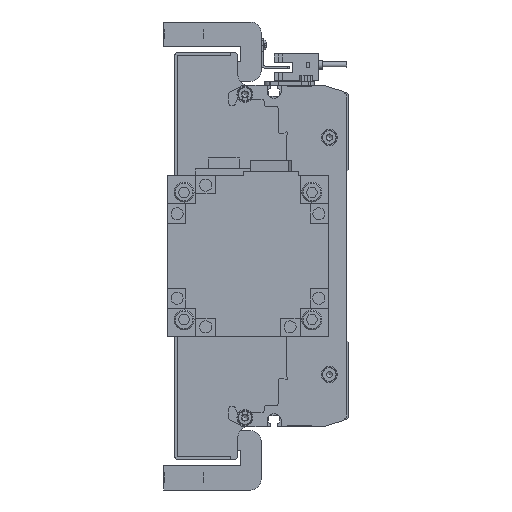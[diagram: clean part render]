
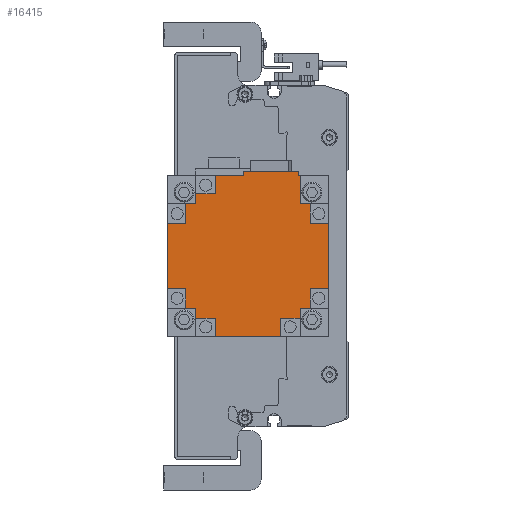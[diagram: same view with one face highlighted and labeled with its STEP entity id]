
A CAD part, left-side view. The second image highlights one B-rep face of the part: STEP entity #16415.
In plain terms, the highlighted planar face has unit normal (-1, 0, 0) as drawn and (0, 1, 0) by its records, which use the part's own axes.
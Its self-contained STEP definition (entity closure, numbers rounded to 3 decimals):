
#1696=ORIENTED_EDGE('',*,*,#6244,.T.);
#1697=ORIENTED_EDGE('',*,*,#6245,.T.);
#1698=ORIENTED_EDGE('',*,*,#6246,.T.);
#1699=ORIENTED_EDGE('',*,*,#6247,.T.);
#1700=ORIENTED_EDGE('',*,*,#6248,.T.);
#1701=ORIENTED_EDGE('',*,*,#6249,.F.);
#1702=ORIENTED_EDGE('',*,*,#6250,.F.);
#1703=ORIENTED_EDGE('',*,*,#6251,.T.);
#1704=ORIENTED_EDGE('',*,*,#6252,.T.);
#1705=ORIENTED_EDGE('',*,*,#6253,.T.);
#1706=ORIENTED_EDGE('',*,*,#6254,.T.);
#1707=ORIENTED_EDGE('',*,*,#6255,.T.);
#1708=ORIENTED_EDGE('',*,*,#6256,.F.);
#1709=ORIENTED_EDGE('',*,*,#6257,.F.);
#1710=ORIENTED_EDGE('',*,*,#6258,.T.);
#1711=ORIENTED_EDGE('',*,*,#6259,.T.);
#1712=ORIENTED_EDGE('',*,*,#6260,.T.);
#1713=ORIENTED_EDGE('',*,*,#6261,.T.);
#1714=ORIENTED_EDGE('',*,*,#6262,.T.);
#1715=ORIENTED_EDGE('',*,*,#6263,.F.);
#1716=ORIENTED_EDGE('',*,*,#6264,.F.);
#1717=ORIENTED_EDGE('',*,*,#6235,.T.);
#1718=ORIENTED_EDGE('',*,*,#6265,.F.);
#1719=ORIENTED_EDGE('',*,*,#6226,.F.);
#1720=ORIENTED_EDGE('',*,*,#6266,.T.);
#1721=ORIENTED_EDGE('',*,*,#6241,.T.);
#1722=ORIENTED_EDGE('',*,*,#6267,.T.);
#1723=ORIENTED_EDGE('',*,*,#6268,.T.);
#1724=ORIENTED_EDGE('',*,*,#6269,.F.);
#1725=ORIENTED_EDGE('',*,*,#6270,.F.);
#6226=EDGE_CURVE('',#8532,#8533,#10206,.T.);
#6235=EDGE_CURVE('',#8542,#8540,#10215,.T.);
#6241=EDGE_CURVE('',#8548,#8547,#10221,.T.);
#6244=EDGE_CURVE('',#8550,#8551,#10224,.T.);
#6245=EDGE_CURVE('',#8551,#8552,#10225,.T.);
#6246=EDGE_CURVE('',#8552,#8553,#10226,.T.);
#6247=EDGE_CURVE('',#8553,#8554,#10227,.T.);
#6248=EDGE_CURVE('',#8554,#8555,#10228,.T.);
#6249=EDGE_CURVE('',#8556,#8555,#10229,.T.);
#6250=EDGE_CURVE('',#8557,#8556,#10230,.T.);
#6251=EDGE_CURVE('',#8557,#8558,#10231,.T.);
#6252=EDGE_CURVE('',#8558,#8559,#10232,.T.);
#6253=EDGE_CURVE('',#8559,#8560,#10233,.T.);
#6254=EDGE_CURVE('',#8560,#8561,#10234,.T.);
#6255=EDGE_CURVE('',#8561,#8562,#10235,.T.);
#6256=EDGE_CURVE('',#8563,#8562,#10236,.T.);
#6257=EDGE_CURVE('',#8564,#8563,#10237,.T.);
#6258=EDGE_CURVE('',#8564,#8565,#10238,.T.);
#6259=EDGE_CURVE('',#8565,#8566,#10239,.T.);
#6260=EDGE_CURVE('',#8566,#8567,#10240,.T.);
#6261=EDGE_CURVE('',#8567,#8568,#10241,.T.);
#6262=EDGE_CURVE('',#8568,#8569,#10242,.T.);
#6263=EDGE_CURVE('',#8570,#8569,#10243,.T.);
#6264=EDGE_CURVE('',#8542,#8570,#10244,.T.);
#6265=EDGE_CURVE('',#8533,#8540,#10245,.T.);
#6266=EDGE_CURVE('',#8532,#8548,#10246,.T.);
#6267=EDGE_CURVE('',#8547,#8571,#10247,.T.);
#6268=EDGE_CURVE('',#8571,#8572,#10248,.T.);
#6269=EDGE_CURVE('',#8573,#8572,#10249,.T.);
#6270=EDGE_CURVE('',#8550,#8573,#10250,.T.);
#8532=VERTEX_POINT('',#24375);
#8533=VERTEX_POINT('',#24376);
#8540=VERTEX_POINT('',#24392);
#8542=VERTEX_POINT('',#24395);
#8547=VERTEX_POINT('',#24405);
#8548=VERTEX_POINT('',#24407);
#8550=VERTEX_POINT('',#24413);
#8551=VERTEX_POINT('',#24414);
#8552=VERTEX_POINT('',#24416);
#8553=VERTEX_POINT('',#24418);
#8554=VERTEX_POINT('',#24420);
#8555=VERTEX_POINT('',#24422);
#8556=VERTEX_POINT('',#24424);
#8557=VERTEX_POINT('',#24426);
#8558=VERTEX_POINT('',#24428);
#8559=VERTEX_POINT('',#24430);
#8560=VERTEX_POINT('',#24432);
#8561=VERTEX_POINT('',#24434);
#8562=VERTEX_POINT('',#24436);
#8563=VERTEX_POINT('',#24438);
#8564=VERTEX_POINT('',#24440);
#8565=VERTEX_POINT('',#24442);
#8566=VERTEX_POINT('',#24444);
#8567=VERTEX_POINT('',#24446);
#8568=VERTEX_POINT('',#24448);
#8569=VERTEX_POINT('',#24450);
#8570=VERTEX_POINT('',#24452);
#8571=VERTEX_POINT('',#24457);
#8572=VERTEX_POINT('',#24459);
#8573=VERTEX_POINT('',#24461);
#10206=LINE('',#24374,#11760);
#10215=LINE('',#24394,#11769);
#10221=LINE('',#24406,#11775);
#10224=LINE('',#24412,#11778);
#10225=LINE('',#24415,#11779);
#10226=LINE('',#24417,#11780);
#10227=LINE('',#24419,#11781);
#10228=LINE('',#24421,#11782);
#10229=LINE('',#24423,#11783);
#10230=LINE('',#24425,#11784);
#10231=LINE('',#24427,#11785);
#10232=LINE('',#24429,#11786);
#10233=LINE('',#24431,#11787);
#10234=LINE('',#24433,#11788);
#10235=LINE('',#24435,#11789);
#10236=LINE('',#24437,#11790);
#10237=LINE('',#24439,#11791);
#10238=LINE('',#24441,#11792);
#10239=LINE('',#24443,#11793);
#10240=LINE('',#24445,#11794);
#10241=LINE('',#24447,#11795);
#10242=LINE('',#24449,#11796);
#10243=LINE('',#24451,#11797);
#10244=LINE('',#24453,#11798);
#10245=LINE('',#24454,#11799);
#10246=LINE('',#24455,#11800);
#10247=LINE('',#24456,#11801);
#10248=LINE('',#24458,#11802);
#10249=LINE('',#24460,#11803);
#10250=LINE('',#24462,#11804);
#11760=VECTOR('',#19449,1000.);
#11769=VECTOR('',#19460,1000.);
#11775=VECTOR('',#19466,1000.);
#11778=VECTOR('',#19471,1000.);
#11779=VECTOR('',#19472,1000.);
#11780=VECTOR('',#19473,1000.);
#11781=VECTOR('',#19474,1000.);
#11782=VECTOR('',#19475,1000.);
#11783=VECTOR('',#19476,1000.);
#11784=VECTOR('',#19477,1000.);
#11785=VECTOR('',#19478,1000.);
#11786=VECTOR('',#19479,1000.);
#11787=VECTOR('',#19480,1000.);
#11788=VECTOR('',#19481,1000.);
#11789=VECTOR('',#19482,1000.);
#11790=VECTOR('',#19483,1000.);
#11791=VECTOR('',#19484,1000.);
#11792=VECTOR('',#19485,1000.);
#11793=VECTOR('',#19486,1000.);
#11794=VECTOR('',#19487,1000.);
#11795=VECTOR('',#19488,1000.);
#11796=VECTOR('',#19489,1000.);
#11797=VECTOR('',#19490,1000.);
#11798=VECTOR('',#19491,1000.);
#11799=VECTOR('',#19492,1000.);
#11800=VECTOR('',#19493,1000.);
#11801=VECTOR('',#19494,1000.);
#11802=VECTOR('',#19495,1000.);
#11803=VECTOR('',#19496,1000.);
#11804=VECTOR('',#19497,1000.);
#13258=EDGE_LOOP('',(#1696,#1697,#1698,#1699,#1700,#1701,#1702,#1703,#1704,
#1705,#1706,#1707,#1708,#1709,#1710,#1711,#1712,#1713,#1714,#1715,#1716,
#1717,#1718,#1719,#1720,#1721,#1722,#1723,#1724,#1725));
#14540=FACE_BOUND('',#13258,.T.);
#15815=PLANE('',#17514);
#16415=ADVANCED_FACE('',(#14540),#15815,.T.);
#17514=AXIS2_PLACEMENT_3D('',#24411,#19469,#19470);
#19449=DIRECTION('',(0.,0.,1.));
#19460=DIRECTION('',(0.,0.,-1.));
#19466=DIRECTION('',(0.,0.,-1.));
#19469=DIRECTION('',(0.,1.,0.));
#19470=DIRECTION('',(0.,0.,1.));
#19471=DIRECTION('',(-1.,0.,0.));
#19472=DIRECTION('',(0.,0.,-1.));
#19473=DIRECTION('',(-1.,0.,0.));
#19474=DIRECTION('',(0.,0.,1.));
#19475=DIRECTION('',(-1.,0.,0.));
#19476=DIRECTION('',(0.,0.,-1.));
#19477=DIRECTION('',(1.,0.,0.));
#19478=DIRECTION('',(0.,0.,1.));
#19479=DIRECTION('',(-1.,0.,0.));
#19480=DIRECTION('',(0.,0.,1.));
#19481=DIRECTION('',(1.,0.,0.));
#19482=DIRECTION('',(0.,0.,1.));
#19483=DIRECTION('',(-1.,0.,0.));
#19484=DIRECTION('',(0.,0.,-1.));
#19485=DIRECTION('',(1.,0.,0.));
#19486=DIRECTION('',(0.,0.,1.));
#19487=DIRECTION('',(1.,0.,0.));
#19488=DIRECTION('',(0.,0.,-1.));
#19489=DIRECTION('',(1.,0.,0.));
#19490=DIRECTION('',(0.,0.,1.));
#19491=DIRECTION('',(-1.,0.,0.));
#19492=DIRECTION('',(-1.,0.,0.));
#19493=DIRECTION('',(-1.,0.,0.));
#19494=DIRECTION('',(-1.,0.,0.));
#19495=DIRECTION('',(0.,0.,-1.));
#19496=DIRECTION('',(1.,0.,0.));
#19497=DIRECTION('',(0.,0.,1.));
#24374=CARTESIAN_POINT('',(42.,138.3,-2.2));
#24375=CARTESIAN_POINT('',(42.,138.3,-2.2));
#24376=CARTESIAN_POINT('',(42.,138.3,25.2));
#24392=CARTESIAN_POINT('',(39.95,138.3,25.2));
#24394=CARTESIAN_POINT('',(39.95,138.3,39.95));
#24395=CARTESIAN_POINT('',(39.95,138.3,25.95));
#24405=CARTESIAN_POINT('',(39.95,138.3,-16.35));
#24406=CARTESIAN_POINT('',(39.95,138.3,39.95));
#24407=CARTESIAN_POINT('',(39.95,138.3,-2.2));
#24411=CARTESIAN_POINT('',(0.,138.3,0.));
#24412=CARTESIAN_POINT('',(0.,138.3,-30.95));
#24413=CARTESIAN_POINT('',(25.95,138.3,-30.95));
#24414=CARTESIAN_POINT('',(16.35,138.3,-30.95));
#24415=CARTESIAN_POINT('',(16.35,138.3,0.));
#24416=CARTESIAN_POINT('',(16.35,138.3,-39.95));
#24417=CARTESIAN_POINT('',(39.95,138.3,-39.95));
#24418=CARTESIAN_POINT('',(-16.35,138.3,-39.95));
#24419=CARTESIAN_POINT('',(-16.35,138.3,0.));
#24420=CARTESIAN_POINT('',(-16.35,138.3,-30.95));
#24421=CARTESIAN_POINT('',(0.,138.3,-30.95));
#24422=CARTESIAN_POINT('',(-25.95,138.3,-30.95));
#24423=CARTESIAN_POINT('',(-25.95,138.3,0.));
#24424=CARTESIAN_POINT('',(-25.95,138.3,-25.95));
#24425=CARTESIAN_POINT('',(0.,138.3,-25.95));
#24426=CARTESIAN_POINT('',(-30.95,138.3,-25.95));
#24427=CARTESIAN_POINT('',(-30.95,138.3,0.));
#24428=CARTESIAN_POINT('',(-30.95,138.3,-16.35));
#24429=CARTESIAN_POINT('',(0.,138.3,-16.35));
#24430=CARTESIAN_POINT('',(-39.95,138.3,-16.35));
#24431=CARTESIAN_POINT('',(-39.95,138.3,-39.95));
#24432=CARTESIAN_POINT('',(-39.95,138.3,16.35));
#24433=CARTESIAN_POINT('',(0.,138.3,16.35));
#24434=CARTESIAN_POINT('',(-30.95,138.3,16.35));
#24435=CARTESIAN_POINT('',(-30.95,138.3,0.));
#24436=CARTESIAN_POINT('',(-30.95,138.3,25.95));
#24437=CARTESIAN_POINT('',(0.,138.3,25.95));
#24438=CARTESIAN_POINT('',(-25.95,138.3,25.95));
#24439=CARTESIAN_POINT('',(-25.95,138.3,0.));
#24440=CARTESIAN_POINT('',(-25.95,138.3,30.95));
#24441=CARTESIAN_POINT('',(0.,138.3,30.95));
#24442=CARTESIAN_POINT('',(-16.35,138.3,30.95));
#24443=CARTESIAN_POINT('',(-16.35,138.3,0.));
#24444=CARTESIAN_POINT('',(-16.35,138.3,39.95));
#24445=CARTESIAN_POINT('',(-39.95,138.3,39.95));
#24446=CARTESIAN_POINT('',(16.35,138.3,39.95));
#24447=CARTESIAN_POINT('',(16.35,138.3,0.));
#24448=CARTESIAN_POINT('',(16.35,138.3,30.95));
#24449=CARTESIAN_POINT('',(0.,138.3,30.95));
#24450=CARTESIAN_POINT('',(25.95,138.3,30.95));
#24451=CARTESIAN_POINT('',(25.95,138.3,0.));
#24452=CARTESIAN_POINT('',(25.95,138.3,25.95));
#24453=CARTESIAN_POINT('',(0.,138.3,25.95));
#24454=CARTESIAN_POINT('',(42.,138.3,25.2));
#24455=CARTESIAN_POINT('',(42.,138.3,-2.2));
#24456=CARTESIAN_POINT('',(0.,138.3,-16.35));
#24457=CARTESIAN_POINT('',(30.95,138.3,-16.35));
#24458=CARTESIAN_POINT('',(30.95,138.3,0.));
#24459=CARTESIAN_POINT('',(30.95,138.3,-25.95));
#24460=CARTESIAN_POINT('',(0.,138.3,-25.95));
#24461=CARTESIAN_POINT('',(25.95,138.3,-25.95));
#24462=CARTESIAN_POINT('',(25.95,138.3,0.));
